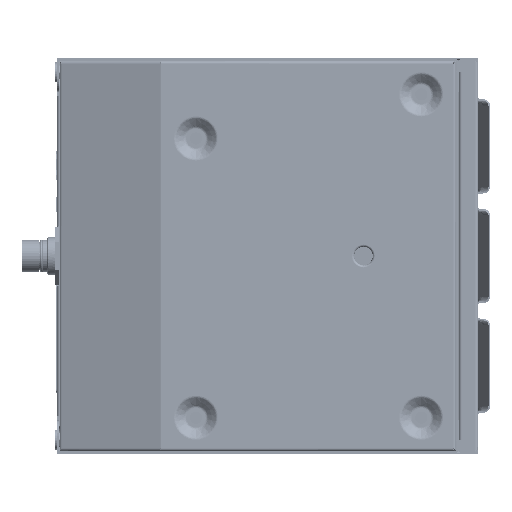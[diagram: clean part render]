
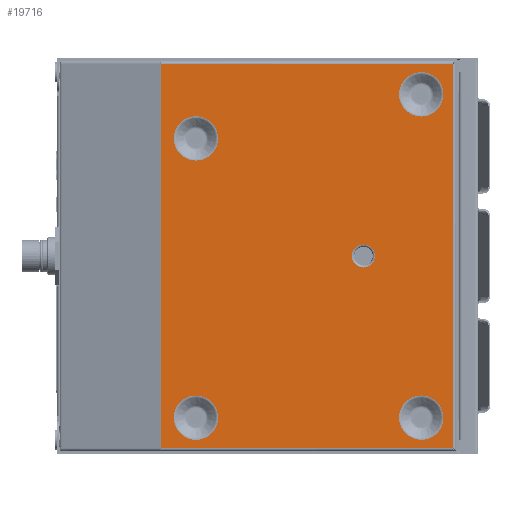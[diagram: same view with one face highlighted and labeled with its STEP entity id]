
A CAD part, front view. The second image highlights one B-rep face of the part: STEP entity #19716.
In plain terms, the highlighted planar face has unit normal (0, -1, 0).
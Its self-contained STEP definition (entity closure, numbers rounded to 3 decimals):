
#441 = CARTESIAN_POINT ( 'NONE',  ( 64.143, -1.143, -7.493 ) ) ;
#561 = EDGE_CURVE ( 'NONE', #175889, #376715, #282422, .T. ) ;
#1576 = CARTESIAN_POINT ( 'NONE',  ( 122.206, -1.143, 124.563 ) ) ;
#9430 = PLANE ( 'NONE',  #301201 ) ;
#13217 = DIRECTION ( 'NONE',  ( 0., -1., 0. ) ) ;
#19716 = ADVANCED_FACE ( 'NONE', ( #55615, #350084, #244456, #150094, #422231, #433266 ), #9430, .F. ) ;
#20126 = DIRECTION ( 'NONE',  ( 0., 1., 0. ) ) ;
#20598 = ORIENTED_EDGE ( 'NONE', *, *, #236476, .F. ) ;
#26703 = DIRECTION ( 'NONE',  ( 0., 0., -1. ) ) ;
#37657 = VERTEX_POINT ( 'NONE', #110559 ) ;
#42219 = CARTESIAN_POINT ( 'NONE',  ( 101.6, -1.143, -104.775 ) ) ;
#45156 = CARTESIAN_POINT ( 'NONE',  ( -67., -1.143, 124.563 ) ) ;
#52202 = ORIENTED_EDGE ( 'NONE', *, *, #256086, .T. ) ;
#52839 = CARTESIAN_POINT ( 'NONE',  ( -67., -1.143, 124.563 ) ) ;
#54361 = CIRCLE ( 'NONE', #347273, 14.374 ) ;
#55615 = FACE_BOUND ( 'NONE', #168868, .T. ) ;
#56545 = ORIENTED_EDGE ( 'NONE', *, *, #353505, .F. ) ;
#70440 = VERTEX_POINT ( 'NONE', #279641 ) ;
#72858 = DIRECTION ( 'NONE',  ( 1., 0., 0. ) ) ;
#75762 = EDGE_LOOP ( 'NONE', ( #442937, #232716 ) ) ;
#77873 = DIRECTION ( 'NONE',  ( 0., 0., -1. ) ) ;
#79416 = LINE ( 'NONE', #102467, #268331 ) ;
#80002 = CARTESIAN_POINT ( 'NONE',  ( -44.45, -1.143, -104.775 ) ) ;
#80735 = VERTEX_POINT ( 'NONE', #146650 ) ;
#80793 = DIRECTION ( 'NONE',  ( 0., 0., 1. ) ) ;
#80844 = AXIS2_PLACEMENT_3D ( 'NONE', #372007, #159371, #407703 ) ;
#86058 = LINE ( 'NONE', #94291, #274963 ) ;
#86467 = CARTESIAN_POINT ( 'NONE',  ( 101.6, -1.143, 90.401 ) ) ;
#91790 = CARTESIAN_POINT ( 'NONE',  ( 101.6, -1.143, -104.775 ) ) ;
#93624 = EDGE_CURVE ( 'NONE', #319054, #122543, #284352, .T. ) ;
#94291 = CARTESIAN_POINT ( 'NONE',  ( -66.886, -1.143, 124.563 ) ) ;
#95451 = CARTESIAN_POINT ( 'NONE',  ( 101.6, -1.143, -90.401 ) ) ;
#102467 = CARTESIAN_POINT ( 'NONE',  ( -67., -1.143, -124.563 ) ) ;
#104697 = VECTOR ( 'NONE', #453560, 1000. ) ;
#108674 = DIRECTION ( 'NONE',  ( 0., 1., 0. ) ) ;
#110559 = CARTESIAN_POINT ( 'NONE',  ( -44.45, -1.143, 61.826 ) ) ;
#114395 = EDGE_LOOP ( 'NONE', ( #331977, #20598 ) ) ;
#114936 = DIRECTION ( 'NONE',  ( 0., -1., 0. ) ) ;
#115350 = EDGE_LOOP ( 'NONE', ( #365936, #56545 ) ) ;
#115708 = DIRECTION ( 'NONE',  ( 0., 0., -1. ) ) ;
#117081 = DIRECTION ( 'NONE',  ( 0., -1., 0. ) ) ;
#121934 = CARTESIAN_POINT ( 'NONE',  ( -44.45, -1.143, -119.149 ) ) ;
#122543 = VERTEX_POINT ( 'NONE', #330901 ) ;
#127522 = DIRECTION ( 'NONE',  ( 0., 0., -1. ) ) ;
#128252 = CIRCLE ( 'NONE', #416901, 7.493 ) ;
#131913 = VERTEX_POINT ( 'NONE', #442710 ) ;
#137021 = EDGE_LOOP ( 'NONE', ( #315644, #245011 ) ) ;
#146650 = CARTESIAN_POINT ( 'NONE',  ( 101.6, -1.143, -119.149 ) ) ;
#150094 = FACE_BOUND ( 'NONE', #137021, .T. ) ;
#159371 = DIRECTION ( 'NONE',  ( 0., -1., 0. ) ) ;
#168868 = EDGE_LOOP ( 'NONE', ( #403092, #253840 ) ) ;
#175889 = VERTEX_POINT ( 'NONE', #1576 ) ;
#178805 = EDGE_LOOP ( 'NONE', ( #52202, #243585, #270932, #347825 ) ) ;
#181060 = CIRCLE ( 'NONE', #80844, 14.374 ) ;
#182559 = VERTEX_POINT ( 'NONE', #86467 ) ;
#183439 = EDGE_CURVE ( 'NONE', #122543, #319054, #128252, .T. ) ;
#190688 = EDGE_CURVE ( 'NONE', #131913, #457832, #86058, .T. ) ;
#198528 = CARTESIAN_POINT ( 'NONE',  ( -66.886, -1.143, -124.563 ) ) ;
#205108 = AXIS2_PLACEMENT_3D ( 'NONE', #91790, #340160, #127522 ) ;
#205268 = CARTESIAN_POINT ( 'NONE',  ( 122.206, -1.143, 124.563 ) ) ;
#207413 = AXIS2_PLACEMENT_3D ( 'NONE', #329766, #117081, #365484 ) ;
#208711 = EDGE_CURVE ( 'NONE', #80735, #229341, #376145, .T. ) ;
#225814 = CARTESIAN_POINT ( 'NONE',  ( 101.6, -1.143, 104.775 ) ) ;
#229341 = VERTEX_POINT ( 'NONE', #95451 ) ;
#232709 = CARTESIAN_POINT ( 'NONE',  ( 64.143, -1.143, 0. ) ) ;
#232716 = ORIENTED_EDGE ( 'NONE', *, *, #451748, .F. ) ;
#233942 = CIRCLE ( 'NONE', #300572, 14.374 ) ;
#236476 = EDGE_CURVE ( 'NONE', #70440, #37657, #448046, .T. ) ;
#239315 = DIRECTION ( 'NONE',  ( 0., -1., 0. ) ) ;
#243585 = ORIENTED_EDGE ( 'NONE', *, *, #561, .F. ) ;
#244456 = FACE_BOUND ( 'NONE', #115350, .T. ) ;
#245011 = ORIENTED_EDGE ( 'NONE', *, *, #447990, .F. ) ;
#253840 = ORIENTED_EDGE ( 'NONE', *, *, #93624, .T. ) ;
#256086 = EDGE_CURVE ( 'NONE', #457832, #376715, #79416, .T. ) ;
#261571 = DIRECTION ( 'NONE',  ( 0., 0., -1. ) ) ;
#268331 = VECTOR ( 'NONE', #72858, 1000. ) ;
#268489 = DIRECTION ( 'NONE',  ( 0., 0., 1. ) ) ;
#270932 = ORIENTED_EDGE ( 'NONE', *, *, #372830, .F. ) ;
#274963 = VECTOR ( 'NONE', #412569, 1000. ) ;
#279641 = CARTESIAN_POINT ( 'NONE',  ( -44.45, -1.143, 90.574 ) ) ;
#282422 = LINE ( 'NONE', #205268, #104697 ) ;
#283089 = CARTESIAN_POINT ( 'NONE',  ( 122.206, -1.143, -124.563 ) ) ;
#284352 = CIRCLE ( 'NONE', #375986, 7.493 ) ;
#290587 = DIRECTION ( 'NONE',  ( 0., -1., 0. ) ) ;
#293510 = DIRECTION ( 'NONE',  ( 0., 1., 0. ) ) ;
#293768 = AXIS2_PLACEMENT_3D ( 'NONE', #42219, #290587, #77873 ) ;
#295123 = VECTOR ( 'NONE', #443919, 1000. ) ;
#300572 = AXIS2_PLACEMENT_3D ( 'NONE', #80002, #328406, #115708 ) ;
#301201 = AXIS2_PLACEMENT_3D ( 'NONE', #45156, #293510, #80793 ) ;
#315644 = ORIENTED_EDGE ( 'NONE', *, *, #322168, .F. ) ;
#319054 = VERTEX_POINT ( 'NONE', #441 ) ;
#321410 = CARTESIAN_POINT ( 'NONE',  ( 64.143, -1.143, 0. ) ) ;
#322168 = EDGE_CURVE ( 'NONE', #182559, #388235, #425293, .T. ) ;
#327612 = CARTESIAN_POINT ( 'NONE',  ( 101.6, -1.143, 104.775 ) ) ;
#328406 = DIRECTION ( 'NONE',  ( 0., -1., 0. ) ) ;
#329178 = EDGE_CURVE ( 'NONE', #37657, #70440, #181060, .T. ) ;
#329766 = CARTESIAN_POINT ( 'NONE',  ( -44.45, -1.143, -104.775 ) ) ;
#330901 = CARTESIAN_POINT ( 'NONE',  ( 64.143, -1.143, 7.493 ) ) ;
#331977 = ORIENTED_EDGE ( 'NONE', *, *, #329178, .F. ) ;
#340160 = DIRECTION ( 'NONE',  ( 0., -1., 0. ) ) ;
#347273 = AXIS2_PLACEMENT_3D ( 'NONE', #327612, #114936, #363353 ) ;
#347825 = ORIENTED_EDGE ( 'NONE', *, *, #190688, .T. ) ;
#350084 = FACE_BOUND ( 'NONE', #75762, .T. ) ;
#352467 = CIRCLE ( 'NONE', #205108, 14.374 ) ;
#353505 = EDGE_CURVE ( 'NONE', #445032, #422240, #380469, .T. ) ;
#357113 = DIRECTION ( 'NONE',  ( 0., 0., 1. ) ) ;
#363353 = DIRECTION ( 'NONE',  ( 0., 0., -1. ) ) ;
#365484 = DIRECTION ( 'NONE',  ( 0., 0., -1. ) ) ;
#365936 = ORIENTED_EDGE ( 'NONE', *, *, #394341, .F. ) ;
#370970 = CARTESIAN_POINT ( 'NONE',  ( 101.6, -1.143, 119.149 ) ) ;
#372007 = CARTESIAN_POINT ( 'NONE',  ( -44.45, -1.143, 76.2 ) ) ;
#372830 = EDGE_CURVE ( 'NONE', #131913, #175889, #378489, .T. ) ;
#375986 = AXIS2_PLACEMENT_3D ( 'NONE', #321410, #108674, #357113 ) ;
#376145 = CIRCLE ( 'NONE', #293768, 14.374 ) ;
#376715 = VERTEX_POINT ( 'NONE', #283089 ) ;
#378489 = LINE ( 'NONE', #52839, #295123 ) ;
#380469 = CIRCLE ( 'NONE', #207413, 14.374 ) ;
#388235 = VERTEX_POINT ( 'NONE', #370970 ) ;
#394341 = EDGE_CURVE ( 'NONE', #422240, #445032, #233942, .T. ) ;
#395421 = CARTESIAN_POINT ( 'NONE',  ( -44.45, -1.143, -90.401 ) ) ;
#403092 = ORIENTED_EDGE ( 'NONE', *, *, #183439, .T. ) ;
#407703 = DIRECTION ( 'NONE',  ( 0., 0., -1. ) ) ;
#412569 = DIRECTION ( 'NONE',  ( 0., 0., -1. ) ) ;
#416901 = AXIS2_PLACEMENT_3D ( 'NONE', #232709, #20126, #268489 ) ;
#422231 = FACE_BOUND ( 'NONE', #114395, .T. ) ;
#422240 = VERTEX_POINT ( 'NONE', #121934 ) ;
#425293 = CIRCLE ( 'NONE', #427707, 14.374 ) ;
#427707 = AXIS2_PLACEMENT_3D ( 'NONE', #225814, #13217, #261571 ) ;
#433266 = FACE_OUTER_BOUND ( 'NONE', #178805, .T. ) ;
#442710 = CARTESIAN_POINT ( 'NONE',  ( -66.886, -1.143, 124.563 ) ) ;
#442937 = ORIENTED_EDGE ( 'NONE', *, *, #208711, .F. ) ;
#443919 = DIRECTION ( 'NONE',  ( 1., 0., 0. ) ) ;
#445032 = VERTEX_POINT ( 'NONE', #395421 ) ;
#447990 = EDGE_CURVE ( 'NONE', #388235, #182559, #54361, .T. ) ;
#448046 = CIRCLE ( 'NONE', #451239, 14.374 ) ;
#451239 = AXIS2_PLACEMENT_3D ( 'NONE', #451978, #239315, #26703 ) ;
#451748 = EDGE_CURVE ( 'NONE', #229341, #80735, #352467, .T. ) ;
#451978 = CARTESIAN_POINT ( 'NONE',  ( -44.45, -1.143, 76.2 ) ) ;
#453560 = DIRECTION ( 'NONE',  ( 0., 0., -1. ) ) ;
#457832 = VERTEX_POINT ( 'NONE', #198528 ) ;
